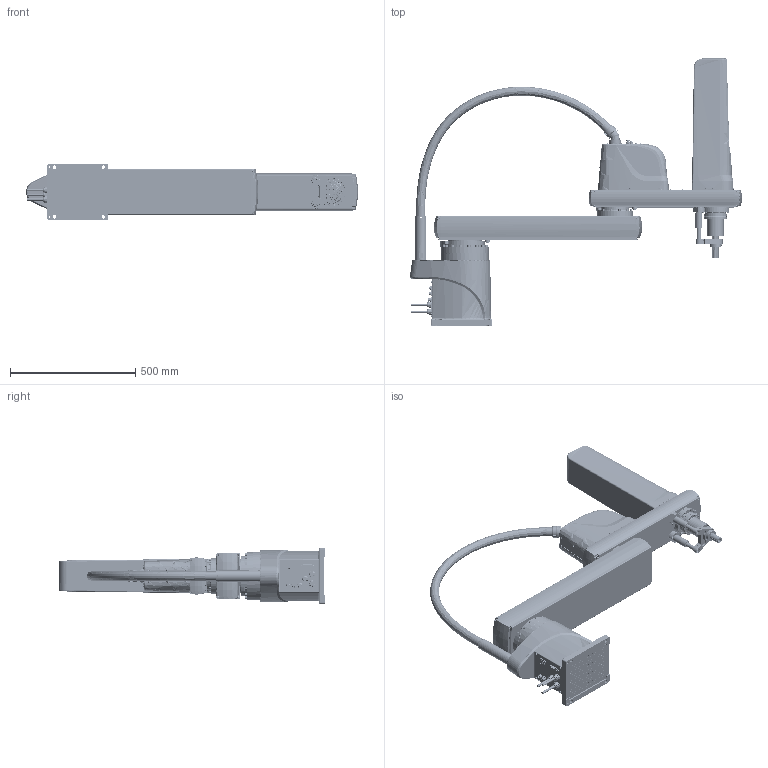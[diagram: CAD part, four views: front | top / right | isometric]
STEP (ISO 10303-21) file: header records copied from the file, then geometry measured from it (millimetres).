
FILE_DESCRIPTION (( 'STEP AP203' ), '1' );
FILE_NAME ('TRH020-1000-400-H.STEP', '2025-06-04T06:07:18', ( 'Windows User' ), ( 'P R C' ), 'SwSTEP 2.0', 'SolidWorks 2023', '' );
FILE_SCHEMA (( 'CONFIG_CONTROL_DESIGN' ));
Products named in the file (6): TRH20100-H_1; TRH20100-H_2; TRH20100-H_5; TRH020-1000-400-H; TRH20100-H_4; TRH20100-H_3
Assembly tree (5 placements, depth 2):
  TRH020-1000-400-H
    TRH20100-H_1
    TRH20100-H_2
    TRH20100-H_3
    TRH20100-H_4
    TRH20100-H_5
Bounding box: 1323.78 x 1064.5 x 220 mm (x, y, z)
Volume: 28119611.7 mm3; surface area: 2619961.2 mm2
Topology: 4 solids, 178 shells, 7742 faces, 18408 edges, 11283 vertices
Faces by surface type: plane 3308, cylinder 2294, bspline 890, cone 758, torus 425, sphere 67
Entity records: 432456 total; most frequent: CARTESIAN_POINT 258749, ORIENTED_EDGE 36044, DIRECTION 35515, EDGE_CURVE 18030, AXIS2_PLACEMENT_3D 13574, VERTEX_POINT 11276, EDGE_LOOP 8639, VECTOR 8367
